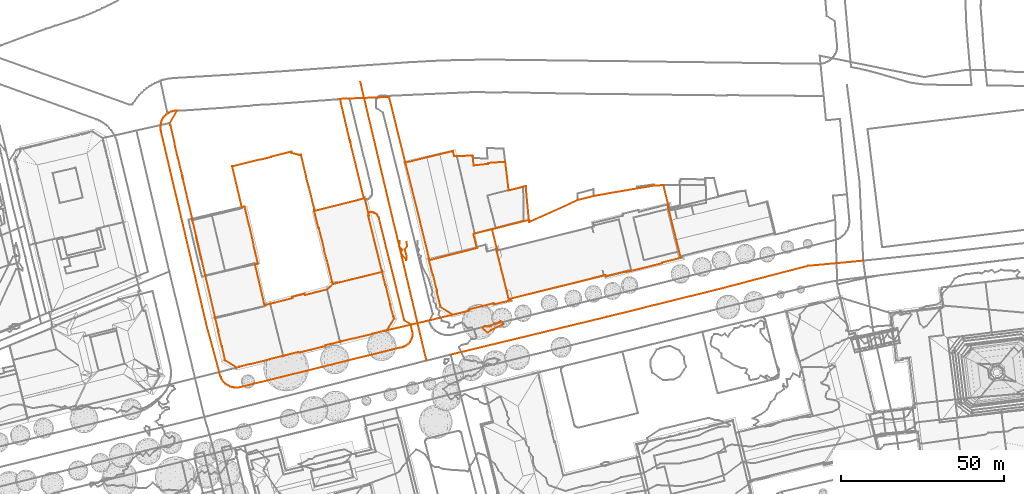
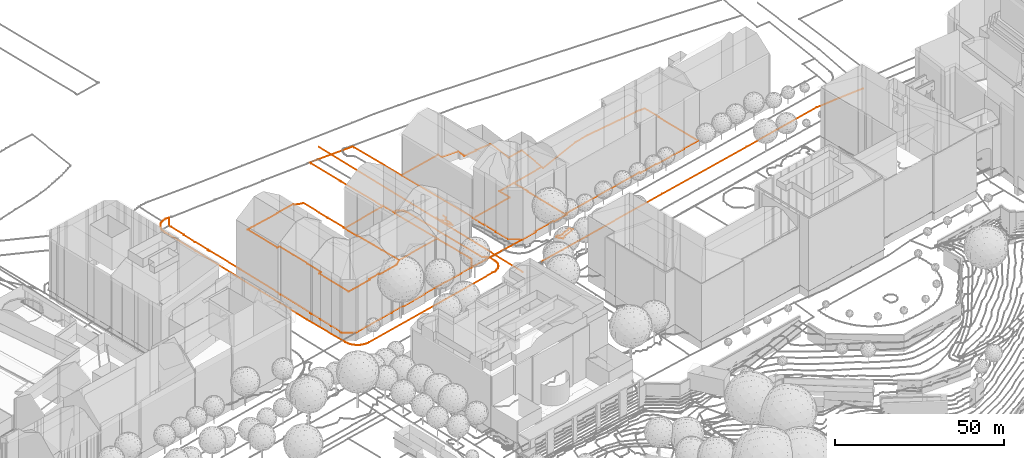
# Not in any storey, part 219 of 494: 12 proxies.
"""IFC2X3 model written with IfcOpenShell, lengths in metres."""

from ifc_helpers import new_model, entity, si_unit, frame, origin_with_axes, place, context, subcontext, project, element, save


model = new_model("IFC2X3")

# Units and contexts
model_context = context("Model", 3, precision=1e-05, world=origin_with_axes())
body_context = subcontext(model_context, "Body", "Model", "MODEL_VIEW")
ifc_project = project(units=[si_unit("AREAUNIT", "SQUARE_METRE"), si_unit("LENGTHUNIT", "METRE")], contexts=[model_context])

# Proxies
proxy_1_placement = place(None, frame((336.4817320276, 476.9157286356, 542.04), z_axis=(0.0, 0.0, 1.0), x_axis=(1.0, 0.0, 0.0)))
element("IfcBuildingElementProxy", 1, at=proxy_1_placement, Name="Road 6", ObjectType="NOTDEFINED", context=body_context, shape_type="GeometricCurveSet", body=[
    entity("IfcGeometricCurveSet", [entity("IfcPolyline", [entity("IfcCartesianPoint", [0.0, 0.0, 0.0]), entity("IfcCartesianPoint", [20.3959999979, -85.9449973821, -0.392])])]),
])
proxy_2_placement = place(None, frame((364.3557320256, 392.7987311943, 541.738), z_axis=(0.0, 0.0, 1.0), x_axis=(1.0, 0.0, 0.0)))
element("IfcBuildingElementProxy", 2, at=proxy_2_placement, Name="Road 168", ObjectType="NOTDEFINED", context=body_context, shape_type="GeometricCurveSet", body=[
    entity("IfcGeometricCurveSet", [entity("IfcPolyline", [entity("IfcCartesianPoint", [0.0, 0.0, 0.0]), entity("IfcCartesianPoint", [48.0580000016, 11.6349996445, 0.573]), entity("IfcCartesianPoint", [81.7109999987, 19.9759993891, 0.748]), entity("IfcCartesianPoint", [109.8969999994, 27.3109991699, 0.752]), entity("IfcCartesianPoint", [126.8670000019, 28.8919991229, 0.703])])]),
])
proxy_3_placement = place(None, frame((297.1247320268, 450.7117160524, 541.6788269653), z_axis=(0.0, 0.0, 1.0), x_axis=(1.0, 0.0, 0.0)))
element("IfcBuildingElementProxy", 3, at=proxy_3_placement, Name="Roads Outline 59", ObjectType="NOTDEFINED", context=body_context, shape_type="GeometricCurveSet", body=[
    entity("IfcGeometricCurveSet", [entity("IfcPolyline", [entity("IfcCartesianPoint", [0.0, 0.0, 0.0]), entity("IfcCartesianPoint", [1.6499999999, 0.409, -0.0016755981]), entity("IfcCartesianPoint", [8.3700000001, 2.0730000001, -0.0223190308]), entity("IfcCartesianPoint", [8.3959999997, 2.0, -0.0214017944]), entity("IfcCartesianPoint", [11.9159999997, 2.8670000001, 0.059857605]), entity("IfcCartesianPoint", [11.8909999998, 2.95, 0.0589176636]), entity("IfcCartesianPoint", [18.196, 4.531, 0.1168852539]), entity("IfcCartesianPoint", [18.3100000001, 4.0919999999, 0.1144012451]), entity("IfcCartesianPoint", [20.5409999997, 3.53, 0.0503810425]), entity("IfcCartesianPoint", [21.1319999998, 3.6770000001, 0.0335469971]), entity("IfcCartesianPoint", [22.7859999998, -3.081, -0.010114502]), entity("IfcCartesianPoint", [22.7199999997, -3.095, -0.0078787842]), entity("IfcCartesianPoint", [23.585, -6.598, -0.0276338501]), entity("IfcCartesianPoint", [23.6529999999, -6.584, -0.0287171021]), entity("IfcCartesianPoint", [25.307, -13.348, -0.0642616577]), entity("IfcCartesianPoint", [25.1519999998, -13.3899999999, -0.056664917]), entity("IfcCartesianPoint", [25.2399999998, -13.7489999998, -0.0609779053]), entity("IfcCartesianPoint", [26.5120000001, -18.953, -0.0857238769]), entity("IfcCartesianPoint", [26.6719999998, -18.9269999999, -0.0804602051]), entity("IfcCartesianPoint", [28.3339999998, -25.6739999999, 0.0201699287]), entity("IfcCartesianPoint", [28.2569999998, -25.6949999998, 0.018988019]), entity("IfcCartesianPoint", [29.1269999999, -29.1969999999, 0.0194713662]), entity("IfcCartesianPoint", [29.1979999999, -29.186, 0.0207217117]), entity("IfcCartesianPoint", [30.9329999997, -36.216, 0.049744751]), entity("IfcCartesianPoint", [29.2029999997, -37.862, 0.0022249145]), entity("IfcCartesianPoint", [22.3929999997, -39.591, -0.048434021]), entity("IfcCartesianPoint", [22.2849999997, -39.192, -0.0505173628]), entity("IfcCartesianPoint", [18.449, -40.1529999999, -0.0261394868]), entity("IfcCartesianPoint", [18.5469999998, -40.5559999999, -0.024960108]), entity("IfcCartesianPoint", [11.7319999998, -42.257, -0.0345388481]), entity("IfcCartesianPoint", [9.9469999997, -42.703, -0.0551670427]), entity("IfcCartesianPoint", [7.0179999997, -30.149, -0.040090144]), entity("IfcCartesianPoint", [7.9099999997, -29.926, -0.074634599]), entity("IfcCartesianPoint", [6.5209999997, -24.04, -0.018808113]), entity("IfcCartesianPoint", [6.605, -24.0159999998, -0.0198595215]), entity("IfcCartesianPoint", [5.2620000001, -18.2109999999, 0.0002366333]), entity("IfcCartesianPoint", [5.1799999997, -18.236, 2.64282e-05]), entity("IfcCartesianPoint", [3.821, -12.338, -0.0033411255]), entity("IfcCartesianPoint", [2.9559999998, -12.5449999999, -0.0030061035]), entity("IfcCartesianPoint", [0.0, 0.0, 0.0])])]),
])
proxy_4_placement = place(None, frame((275.0467320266, 462.7807160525, 541.6980488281), z_axis=(0.0, 0.0, 1.0), x_axis=(1.0, 0.0, 0.0)))
element("IfcBuildingElementProxy", 4, at=proxy_4_placement, Name="Roads Outline 60", ObjectType="NOTDEFINED", context=body_context, shape_type="GeometricCurveSet", body=[
    entity("IfcGeometricCurveSet", [entity("IfcPolyline", [entity("IfcCartesianPoint", [0.0300000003, 0.5899999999, 0.0009667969]), entity("IfcCartesianPoint", [0.1359999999, 1.2039999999, 0.0044673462]), entity("IfcCartesianPoint", [0.318, 1.7999999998, 0.0134096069]), entity("IfcCartesianPoint", [0.5720000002, 2.368, 0.0258894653]), entity("IfcCartesianPoint", [0.8940000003, 2.9009999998, 0.0417103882]), entity("IfcCartesianPoint", [1.281, 3.389, 0.0475413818]), entity("IfcCartesianPoint", [1.7250000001, 3.8259999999, 0.0303331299]), entity("IfcCartesianPoint", [2.2200000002, 4.2039999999, 0.0151245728]), entity("IfcCartesianPoint", [2.7450000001, 4.513, 0.0182327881]), entity("IfcCartesianPoint", [3.304, 4.7549999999, 0.0124403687]), entity("IfcCartesianPoint", [3.8880000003, 4.9269999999, -0.0148276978]), entity("IfcCartesianPoint", [4.4890000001, 5.0279999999, -0.071666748]), entity("IfcCartesianPoint", [5.0970000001, 5.054, -0.1489284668]), entity("IfcCartesianPoint", [2.8590000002, 1.2239999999, 0.0189077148]), entity("IfcCartesianPoint", [3.0219999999, 0.547, 0.0198727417]), entity("IfcCartesianPoint", [3.1030000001, 0.5649999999, 0.0203522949]), entity("IfcCartesianPoint", [4.3910000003, -4.9470000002, -0.0592133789]), entity("IfcCartesianPoint", [4.3089999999, -4.9770000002, -0.0487932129]), entity("IfcCartesianPoint", [5.3930000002, -9.659, -0.1534569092]), entity("IfcCartesianPoint", [5.4780000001, -9.645, -0.153524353]), entity("IfcCartesianPoint", [6.7520000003, -15.135, -0.123000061]), entity("IfcCartesianPoint", [6.6690000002, -15.162, -0.1271490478]), entity("IfcCartesianPoint", [6.75, -15.517, -0.1231000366]), entity("IfcCartesianPoint", [6.8310000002, -15.872, -0.1190510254]), entity("IfcCartesianPoint", [6.9210000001, -15.844, -0.114552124]), entity("IfcCartesianPoint", [9.8130000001, -28.331, -0.0100507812]), entity("IfcCartesianPoint", [9.7400000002, -28.3430000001, -0.0095161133]), entity("IfcCartesianPoint", [9.804, -28.689, -0.0099848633]), entity("IfcCartesianPoint", [9.9010000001, -29.034, -0.0106953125]), entity("IfcCartesianPoint", [9.9700000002, -29.027, -0.0112006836]), entity("IfcCartesianPoint", [13.75, -45.318, -0.0928490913]), entity("IfcCartesianPoint", [13.6800000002, -45.3420000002, -0.0932465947]), entity("IfcCartesianPoint", [13.7409999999, -45.666, -0.0959733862]), entity("IfcCartesianPoint", [13.8340000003, -46.0190000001, -0.0993786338]), entity("IfcCartesianPoint", [13.9040000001, -46.0050000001, -0.0994325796]), entity("IfcCartesianPoint", [16.8259999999, -58.4140000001, -0.2406979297]), entity("IfcCartesianPoint", [16.7400000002, -58.466, -0.2413464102]), entity("IfcCartesianPoint", [16.8259999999, -58.834, -0.247791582]), entity("IfcCartesianPoint", [16.9130000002, -59.203, -0.2524293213]), entity("IfcCartesianPoint", [16.9850000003, -59.1810000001, -0.2515760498]), entity("IfcCartesianPoint", [17.855, -62.8020000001, -0.2738510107]), entity("IfcCartesianPoint", [17.7620000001, -62.8360000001, -0.2750132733]), entity("IfcCartesianPoint", [18.8360000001, -67.361, -0.2796952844]), entity("IfcCartesianPoint", [18.9180000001, -67.3420000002, -0.2779980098]), entity("IfcCartesianPoint", [19.7609999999, -71.0210000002, -0.3249816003]), entity("IfcCartesianPoint", [19.679, -71.0490000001, -0.3270047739]), entity("IfcCartesianPoint", [19.8370000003, -71.743, -0.3289797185]), entity("IfcCartesianPoint", [23.4850000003, -73.9810000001, -0.2930095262]), entity("IfcCartesianPoint", [24.1630000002, -73.817, -0.2965359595]), entity("IfcCartesianPoint", [24.1520000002, -73.7290000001, -0.2928899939]), entity("IfcCartesianPoint", [27.787, -72.817, -0.2841535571]), entity("IfcCartesianPoint", [27.8190000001, -72.8910000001, -0.2865415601]), entity("IfcCartesianPoint", [33.7880000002, -71.4000000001, -0.230156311]), entity("IfcCartesianPoint", [33.7680000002, -71.321, -0.2318454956]), entity("IfcCartesianPoint", [37.409, -70.4210000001, -0.1618181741]), entity("IfcCartesianPoint", [37.4470000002, -70.5, -0.1583328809]), entity("IfcCartesianPoint", [37.8110000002, -70.4110000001, -0.1326917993]), entity("IfcCartesianPoint", [38.1750000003, -70.3220000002, -0.1024150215]), entity("IfcCartesianPoint", [38.1520000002, -70.236, -0.0997557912]), entity("IfcCartesianPoint", [42.324, -69.203, -0.0881807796]), entity("IfcCartesianPoint", [42.378, -69.4310000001, -0.0971087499]), entity("IfcCartesianPoint", [50.8030000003, -67.345, 0.0337734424]), entity("IfcCartesianPoint", [50.7430000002, -67.1130000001, 0.0406000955]), entity("IfcCartesianPoint", [54.895, -66.0720000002, 0.0804437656]), entity("IfcCartesianPoint", [54.929, -66.1610000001, 0.0776237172]), entity("IfcCartesianPoint", [55.2940000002, -66.071, 0.0829830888]), entity("IfcCartesianPoint", [55.6580000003, -65.9820000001, 0.0827874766]), entity("IfcCartesianPoint", [55.6350000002, -65.8900000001, 0.0821821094]), entity("IfcCartesianPoint", [59.2590000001, -65.0010000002, 0.0659820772]), entity("IfcCartesianPoint", [59.29, -65.0820000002, 0.0663261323]), entity("IfcCartesianPoint", [65.281, -63.595, 0.145563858]), entity("IfcCartesianPoint", [65.27, -63.5150000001, 0.1422196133]), entity("IfcCartesianPoint", [68.8990000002, -62.6100000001, 0.2364492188]), entity("IfcCartesianPoint", [68.9310000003, -62.7000000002, 0.234894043]), entity("IfcCartesianPoint", [69.6170000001, -62.527, 0.2437378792]), entity("IfcCartesianPoint", [71.8340000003, -58.8470000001, 0.243986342]), entity("IfcCartesianPoint", [71.659, -58.1460000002, 0.2331991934]), entity("IfcCartesianPoint", [71.5750000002, -58.1840000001, 0.2321311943]), entity("IfcCartesianPoint", [70.6710000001, -54.534, 0.2416911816]), entity("IfcCartesianPoint", [70.7370000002, -54.5180000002, 0.2410928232]), entity("IfcCartesianPoint", [69.2680000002, -48.534, 0.2344405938]), entity("IfcCartesianPoint", [69.1780000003, -48.5480000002, 0.2334919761]), entity("IfcCartesianPoint", [68.2680000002, -44.915, 0.2603381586]), entity("IfcCartesianPoint", [68.3429999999, -44.8860000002, 0.2610097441]), entity("IfcCartesianPoint", [68.2579999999, -44.5120000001, 0.2662855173]), entity("IfcCartesianPoint", [68.1720000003, -44.138, 0.2717700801]), entity("IfcCartesianPoint", [68.0840000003, -44.1580000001, 0.2704731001]), entity("IfcCartesianPoint", [63.9190000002, -27.2220000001, 0.2387770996]), entity("IfcCartesianPoint", [64.1520000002, -27.1640000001, 0.2442525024]), entity("IfcCartesianPoint", [63.929, -26.2590000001, 0.2390133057]), entity("IfcCartesianPoint", [63.9750000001, -26.2450000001, 0.2400998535]), entity("IfcCartesianPoint", [64.3470000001, -26.1610000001, 0.2485966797]), entity("IfcCartesianPoint", [64.727, -26.1330000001, 0.2570622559]), entity("IfcCartesianPoint", [65.1070000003, -26.1610000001, 0.265527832]), entity("IfcCartesianPoint", [65.4790000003, -26.2450000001, 0.272583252]), entity("IfcCartesianPoint", [65.835, -26.382, 0.2792539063]), entity("IfcCartesianPoint", [66.227, -26.621, 0.2837104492]), entity("IfcCartesianPoint", [66.5720000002, -26.9230000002, 0.2797938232]), entity("IfcCartesianPoint", [66.8620000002, -27.2790000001, 0.2765015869]), entity("IfcCartesianPoint", [67.088, -27.6780000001, 0.2739359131]), entity("IfcCartesianPoint", [67.2430000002, -28.1100000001, 0.2676782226]), entity("IfcCartesianPoint", [75.0360000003, -59.48, 0.1908198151]), entity("IfcCartesianPoint", [76.9100000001, -60.612, 0.1337780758]), entity("IfcCartesianPoint", [76.9569999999, -60.7950000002, 0.1268442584]), entity("IfcCartesianPoint", [77.4410000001, -62.6900000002, 0.0761712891]), entity("IfcCartesianPoint", [77.5260000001, -63.2010000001, 0.0825572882]), entity("IfcCartesianPoint", [77.548, -63.719, 0.0967074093]), entity("IfcCartesianPoint", [77.5060000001, -64.236, 0.1075981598]), entity("IfcCartesianPoint", [77.3999999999, -64.743, 0.103211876]), entity("IfcCartesianPoint", [77.233, -65.2340000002, 0.0967943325]), entity("IfcCartesianPoint", [77.0070000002, -65.7000000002, 0.0902831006]), entity("IfcCartesianPoint", [76.7250000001, -66.135, 0.0856594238]), entity("IfcCartesianPoint", [76.3990000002, -66.524, 0.1023774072]), entity("IfcCartesianPoint", [76.0279999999, -66.871, 0.1103007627]), entity("IfcCartesianPoint", [75.6170000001, -67.1700000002, 0.0943287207]), entity("IfcCartesianPoint", [75.1740000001, -67.4180000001, 0.0755755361]), entity("IfcCartesianPoint", [74.7039999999, -67.6100000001, 0.0772408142]), entity("IfcCartesianPoint", [74.2140000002, -67.7450000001, 0.0765519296]), entity("IfcCartesianPoint", [73.7120000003, -67.8190000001, 0.0677834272]), entity("IfcCartesianPoint", [24.548, -79.983, -0.4654792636]), entity("IfcCartesianPoint", [23.9310000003, -80.0930000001, -0.4729349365]), entity("IfcCartesianPoint", [23.3050000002, -80.128, -0.4662569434]), entity("IfcCartesianPoint", [22.679, -80.0860000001, -0.4889861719]), entity("IfcCartesianPoint", [22.0640000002, -79.9670000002, -0.5106293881]), entity("IfcCartesianPoint", [21.4670000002, -79.7750000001, -0.4969277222]), entity("IfcCartesianPoint", [20.898, -79.5110000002, -0.4904165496]), entity("IfcCartesianPoint", [20.3659999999, -79.1800000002, -0.4878103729]), entity("IfcCartesianPoint", [19.915, -78.821, -0.4824731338]), entity("IfcCartesianPoint", [19.5070000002, -78.4130000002, -0.4973264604]), entity("IfcCartesianPoint", [19.1469999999, -77.9610000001, -0.5141732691]), entity("IfcCartesianPoint", [18.841, -77.4720000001, -0.4788578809]), entity("IfcCartesianPoint", [18.591, -76.952, -0.4694580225]), entity("IfcCartesianPoint", [18.4020000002, -76.4070000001, -0.4673487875]), entity("IfcCartesianPoint", [18.1120000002, -75.3370000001, -0.4588355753]), entity("IfcCartesianPoint", [14.2260000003, -61.0010000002, -0.2770075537]), entity("IfcCartesianPoint", [10.807, -46.452, -0.1292259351]), entity("IfcCartesianPoint", [7.0100000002, -30.335, -0.1101032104]), entity("IfcCartesianPoint", [3.1570000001, -13.942, 0.0193040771]), entity("IfcCartesianPoint", [0.148, -1.1700000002, 0.0050569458]), entity("IfcCartesianPoint", [0.0390000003, -0.5890000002, 0.0012568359]), entity("IfcCartesianPoint", [0.0, 0.0, 0.0]), entity("IfcCartesianPoint", [0.0300000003, 0.5899999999, 0.0009667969])])]),
])
proxy_5_placement = place(None, frame((377.0367320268, 431.3677160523, 542.2162315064), z_axis=(0.0, 0.0, 1.0), x_axis=(1.0, 0.0, 0.0)))
element("IfcBuildingElementProxy", 5, at=proxy_5_placement, Name="Cadastre 16", ObjectType="NOTDEFINED", context=body_context, shape_type="GeometricCurveSet", body=[
    entity("IfcGeometricCurveSet", [entity("IfcPolyline", [entity("IfcCartesianPoint", [0.0, 0.0, 0.0]), entity("IfcCartesianPoint", [11.3399999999, 2.8670000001, 0.1822682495]), entity("IfcCartesianPoint", [11.4019999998, 2.213, 0.1821925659]), entity("IfcCartesianPoint", [26.3789999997, 8.963, 0.2160894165]), entity("IfcCartesianPoint", [31.3279999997, 10.253, 0.2043529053]), entity("IfcCartesianPoint", [44.3670000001, 12.4850000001, 0.2570105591]), entity("IfcCartesianPoint", [50.176, 13.4750000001, 0.3522877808]), entity("IfcCartesianPoint", [52.736, 13.5150000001, 0.3821083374]), entity("IfcCartesianPoint", [54.196, 7.635, 0.3756911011]), entity("IfcCartesianPoint", [53.9959999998, 7.5850000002, 0.376788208]), entity("IfcCartesianPoint", [58.0469999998, -8.818, 0.3820906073]), entity("IfcCartesianPoint", [52.2969999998, -10.2389999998, 0.4040692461]), entity("IfcCartesianPoint", [52.3619999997, -10.4689999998, 0.4052933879]), entity("IfcCartesianPoint", [41.389, -13.1679999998, 0.3297703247]), entity("IfcCartesianPoint", [41.338, -12.96, 0.3279343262]), entity("IfcCartesianPoint", [35.1000000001, -14.534, 0.2568990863]), entity("IfcCartesianPoint", [34.9839999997, -14.068, 0.2523218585]), entity("IfcCartesianPoint", [5.6370000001, -21.3799999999, 0.0141217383]), entity("IfcCartesianPoint", [5.767, -21.8739999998, 0.005846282]), entity("IfcCartesianPoint", [5.2819999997, -21.9939999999, 0.0122577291]), entity("IfcCartesianPoint", [1.3199999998, -6.1359999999, 0.1616621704]), entity("IfcCartesianPoint", [1.537, -6.078, 0.1822575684]), entity("IfcCartesianPoint", [0.0, 0.0, 0.0])])]),
])
proxy_6_placement = place(None, frame((297.1247320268, 450.7117160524, 541.6788269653), z_axis=(0.0, 0.0, 1.0), x_axis=(1.0, 0.0, 0.0)))
element("IfcBuildingElementProxy", 6, at=proxy_6_placement, Name="Cadastre 47", ObjectType="NOTDEFINED", context=body_context, shape_type="GeometricCurveSet", body=[
    entity("IfcGeometricCurveSet", [entity("IfcPolyline", [entity("IfcCartesianPoint", [0.0, 0.0, 0.0]), entity("IfcCartesianPoint", [1.6499999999, 0.409, -0.0016755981]), entity("IfcCartesianPoint", [8.3700000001, 2.0730000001, -0.0223190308]), entity("IfcCartesianPoint", [8.3959999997, 2.0, -0.0214017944]), entity("IfcCartesianPoint", [11.9159999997, 2.8670000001, 0.059857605]), entity("IfcCartesianPoint", [11.8909999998, 2.95, 0.0589176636]), entity("IfcCartesianPoint", [18.196, 4.531, 0.1168852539]), entity("IfcCartesianPoint", [18.3100000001, 4.0919999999, 0.1144012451]), entity("IfcCartesianPoint", [20.5409999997, 3.53, 0.0503810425]), entity("IfcCartesianPoint", [21.1319999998, 3.6770000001, 0.0335469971]), entity("IfcCartesianPoint", [22.7859999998, -3.081, -0.010114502]), entity("IfcCartesianPoint", [22.7199999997, -3.095, -0.0078787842]), entity("IfcCartesianPoint", [23.585, -6.598, -0.0276338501]), entity("IfcCartesianPoint", [23.6529999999, -6.584, -0.0287171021]), entity("IfcCartesianPoint", [25.307, -13.348, -0.0642616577]), entity("IfcCartesianPoint", [25.1519999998, -13.3899999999, -0.056664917]), entity("IfcCartesianPoint", [25.2399999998, -13.7489999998, -0.0609779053]), entity("IfcCartesianPoint", [26.5120000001, -18.953, -0.0857238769]), entity("IfcCartesianPoint", [26.6719999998, -18.9269999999, -0.0804602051]), entity("IfcCartesianPoint", [28.3339999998, -25.6739999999, 0.0201699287]), entity("IfcCartesianPoint", [28.2569999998, -25.6949999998, 0.018988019]), entity("IfcCartesianPoint", [29.1269999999, -29.1969999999, 0.0194713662]), entity("IfcCartesianPoint", [29.1979999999, -29.186, 0.0207217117]), entity("IfcCartesianPoint", [30.9329999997, -36.216, 0.049744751]), entity("IfcCartesianPoint", [29.2029999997, -37.862, 0.0022249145]), entity("IfcCartesianPoint", [22.3929999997, -39.591, -0.048434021]), entity("IfcCartesianPoint", [22.2849999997, -39.192, -0.0505173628]), entity("IfcCartesianPoint", [18.449, -40.1529999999, -0.0261394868]), entity("IfcCartesianPoint", [18.5469999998, -40.5559999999, -0.024960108]), entity("IfcCartesianPoint", [11.7319999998, -42.257, -0.0345388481]), entity("IfcCartesianPoint", [9.9469999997, -42.703, -0.0551670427]), entity("IfcCartesianPoint", [7.0179999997, -30.149, -0.040090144]), entity("IfcCartesianPoint", [7.9099999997, -29.926, -0.074634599]), entity("IfcCartesianPoint", [6.5209999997, -24.04, -0.018808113]), entity("IfcCartesianPoint", [6.605, -24.0159999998, -0.0198595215]), entity("IfcCartesianPoint", [5.2620000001, -18.2109999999, 0.0002366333]), entity("IfcCartesianPoint", [5.1799999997, -18.236, 2.64282e-05]), entity("IfcCartesianPoint", [3.821, -12.338, -0.0033411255]), entity("IfcCartesianPoint", [2.9559999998, -12.5449999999, -0.0030061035]), entity("IfcCartesianPoint", [0.0, 0.0, 0.0])])]),
])
proxy_7_placement = place(None, frame((330.3587320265, 471.4587160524, 541.7696022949), z_axis=(0.0, 0.0, 1.0), x_axis=(1.0, 0.0, 0.0)))
element("IfcBuildingElementProxy", 7, at=proxy_7_placement, Name="Cadastre 48", ObjectType="NOTDEFINED", context=body_context, shape_type="GeometricCurveSet", body=[
    entity("IfcGeometricCurveSet", [entity("IfcPolyline", [entity("IfcCartesianPoint", [0.0, 0.0, 0.0]), entity("IfcCartesianPoint", [14.9870000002, 0.5750000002, 0.1400041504]), entity("IfcCartesianPoint", [15.145, -0.0789999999, 0.1459735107]), entity("IfcCartesianPoint", [15.1920000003, -0.0799999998, 0.1477492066]), entity("IfcCartesianPoint", [19.9960000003, -19.3929999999, 0.2209631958]), entity("IfcCartesianPoint", [19.9610000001, -19.412, 0.2230460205]), entity("IfcCartesianPoint", [20.0130000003, -19.6259999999, 0.2199515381]), entity("IfcCartesianPoint", [20.108, -20.0209999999, 0.2142981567]), entity("IfcCartesianPoint", [20.1710000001, -20.007, 0.2105490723]), entity("IfcCartesianPoint", [27.3540000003, -49.1409999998, 0.3258504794]), entity("IfcCartesianPoint", [27.196, -49.1839999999, 0.3249682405]), entity("IfcCartesianPoint", [27.307, -49.6299999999, 0.3369750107]), entity("IfcCartesianPoint", [28.4510000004, -54.2169999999, 0.3122674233]), entity("IfcCartesianPoint", [28.5750000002, -54.1949999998, 0.3121810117]), entity("IfcCartesianPoint", [29.7590000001, -59.0149999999, 0.2710263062]), entity("IfcCartesianPoint", [29.6350000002, -59.0419999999, 0.2697677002]), entity("IfcCartesianPoint", [30.8900000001, -64.1139999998, 0.2949888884]), entity("IfcCartesianPoint", [34.5890000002, -66.419, 0.2919831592]), entity("IfcCartesianPoint", [14.3050000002, -71.2049999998, 0.1721844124]), entity("IfcCartesianPoint", [16.5220000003, -67.5249999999, 0.1724328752]), entity("IfcCartesianPoint", [16.3470000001, -66.824, 0.1616457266]), entity("IfcCartesianPoint", [16.2630000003, -66.862, 0.1605777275]), entity("IfcCartesianPoint", [15.3590000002, -63.2119999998, 0.1701377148]), entity("IfcCartesianPoint", [15.4250000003, -63.196, 0.1695393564]), entity("IfcCartesianPoint", [13.9560000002, -57.2119999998, 0.162887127]), entity("IfcCartesianPoint", [13.8660000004, -57.226, 0.1619385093]), entity("IfcCartesianPoint", [12.9560000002, -53.5929999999, 0.1887846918]), entity("IfcCartesianPoint", [13.031, -53.564, 0.1894562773]), entity("IfcCartesianPoint", [12.946, -53.1899999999, 0.1947320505]), entity("IfcCartesianPoint", [12.8600000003, -52.8159999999, 0.2002166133]), entity("IfcCartesianPoint", [12.7720000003, -52.8359999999, 0.1989196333]), entity("IfcCartesianPoint", [8.6070000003, -35.8999999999, 0.1672236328]), entity("IfcCartesianPoint", [8.8400000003, -35.8419999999, 0.1726990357]), entity("IfcCartesianPoint", [7.5440000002, -30.5899999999, 0.1421149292]), entity("IfcCartesianPoint", [7.4550000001, -30.2309999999, 0.1400126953]), entity("IfcCartesianPoint", [7.2320000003, -30.2859999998, 0.1347453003]), entity("IfcCartesianPoint", [3.0720000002, -13.3169999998, 0.0458264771]), entity("IfcCartesianPoint", [3.159, -13.2949999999, 0.0471274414]), entity("IfcCartesianPoint", [3.0730000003, -12.9519999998, 0.0458414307]), entity("IfcCartesianPoint", [2.9880000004, -12.6099999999, 0.0445703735]), entity("IfcCartesianPoint", [2.9010000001, -12.632, 0.0432694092]), entity("IfcCartesianPoint", [0.0790000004, -0.682, 0.0011765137]), entity("IfcCartesianPoint", [0.1660000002, -0.6599999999, 0.002472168]), entity("IfcCartesianPoint", [0.0, 0.0, 0.0])])]),
])
proxy_8_placement = place(None, frame((350.3717320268, 451.8327160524, 541.989553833), z_axis=(0.0, 0.0, 1.0), x_axis=(1.0, 0.0, 0.0)))
element("IfcBuildingElementProxy", 8, at=proxy_8_placement, Name="Cadastre 49", ObjectType="NOTDEFINED", context=body_context, shape_type="GeometricCurveSet", body=[
    entity("IfcGeometricCurveSet", [entity("IfcPolyline", [entity("IfcCartesianPoint", [0.0, 0.0, 0.0]), entity("IfcCartesianPoint", [14.6540000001, 3.585, 0.1497576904]), entity("IfcCartesianPoint", [15.0449999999, 1.993, 0.1499817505]), entity("IfcCartesianPoint", [20.6869999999, 2.1710000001, 0.1577591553]), entity("IfcCartesianPoint", [21.034, -0.868, 0.1619075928]), entity("IfcCartesianPoint", [25.4440000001, -0.355, 0.2413348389]), entity("IfcCartesianPoint", [25.4219999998, -0.0859999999, 0.2429998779]), entity("IfcCartesianPoint", [30.7319999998, 0.2760000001, 0.4419195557]), entity("IfcCartesianPoint", [31.7919999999, -8.5419999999, 0.4724477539]), entity("IfcCartesianPoint", [35.7850000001, -7.5319999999, 0.4568972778]), entity("IfcCartesianPoint", [37.0260000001, -7.2179999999, 0.4254705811]), entity("IfcCartesianPoint", [38.0049999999, -17.598, 0.4089459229]), entity("IfcCartesianPoint", [26.665, -20.4650000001, 0.2266776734]), entity("IfcCartesianPoint", [20.9350000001, -21.9129999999, 0.1604090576]), entity("IfcCartesianPoint", [22.0299999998, -26.2579999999, 0.1873798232]), entity("IfcCartesianPoint", [7.2939999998, -30.004, 0.1170234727]), entity("IfcCartesianPoint", [7.1829999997, -29.558, 0.1050167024]), entity("IfcCartesianPoint", [7.341, -29.5149999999, 0.1058989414]), entity("IfcCartesianPoint", [0.1579999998, -0.3810000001, -0.0094024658]), entity("IfcCartesianPoint", [0.0949999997, -0.395, -0.0056533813]), entity("IfcCartesianPoint", [0.0, 0.0, 0.0])])]),
])
proxy_9_placement = place(None, frame((322.3647320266, 436.9627160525, 541.6178490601), z_axis=(0.0, 0.0, 1.0), x_axis=(1.0, 0.0, 0.0)))
element("IfcBuildingElementProxy", 9, at=proxy_9_placement, Name="Cadastre 50", ObjectType="NOTDEFINED", context=body_context, shape_type="GeometricCurveSet", body=[
    entity("IfcGeometricCurveSet", [entity("IfcPolyline", [entity("IfcCartesianPoint", [0.0, 0.0, 0.0]), entity("IfcCartesianPoint", [15.5380000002, 3.906, 0.2938681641]), entity("IfcCartesianPoint", [16.8340000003, -1.3460000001, 0.3244522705]), entity("IfcCartesianPoint", [16.6010000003, -1.4040000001, 0.3189768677]), entity("IfcCartesianPoint", [20.7660000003, -18.3400000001, 0.3506728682]), entity("IfcCartesianPoint", [20.8540000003, -18.3200000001, 0.3519698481]), entity("IfcCartesianPoint", [20.9399999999, -18.6940000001, 0.3464852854]), entity("IfcCartesianPoint", [5.693, -22.4670000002, 0.1107226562]), entity("IfcCartesianPoint", [3.9580000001, -15.4370000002, 0.081699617]), entity("IfcCartesianPoint", [3.8870000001, -15.4480000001, 0.0804492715]), entity("IfcCartesianPoint", [3.017, -11.946, 0.0799659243]), entity("IfcCartesianPoint", [3.094, -11.925, 0.081147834]), entity("IfcCartesianPoint", [1.432, -5.1780000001, -0.0194822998]), entity("IfcCartesianPoint", [1.2720000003, -5.2040000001, -0.0247459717]), entity("IfcCartesianPoint", [0.0, 0.0, 0.0])])]),
])
proxy_10_placement = place(None, frame((357.6657320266, 421.8287160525, 542.1065773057), z_axis=(0.0, 0.0, 1.0), x_axis=(1.0, 0.0, 0.0)))
element("IfcBuildingElementProxy", 10, at=proxy_10_placement, Name="Cadastre 51", ObjectType="NOTDEFINED", context=body_context, shape_type="GeometricCurveSet", body=[
    entity("IfcGeometricCurveSet", [entity("IfcPolyline", [entity("IfcCartesianPoint", [0.0, 0.0, 0.0]), entity("IfcCartesianPoint", [14.736, 3.746, 0.0703563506]), entity("IfcCartesianPoint", [13.6410000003, 8.091, 0.043385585]), entity("IfcCartesianPoint", [19.3710000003, 9.5389999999, 0.1096542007]), entity("IfcCartesianPoint", [20.9080000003, 3.4609999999, 0.2919117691]), entity("IfcCartesianPoint", [20.6910000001, 3.4029999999, 0.2713163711]), entity("IfcCartesianPoint", [24.6529999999, -12.4550000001, 0.1219119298]), entity("IfcCartesianPoint", [19.9180000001, -13.6270000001, 0.0567596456]), entity("IfcCartesianPoint", [19.824, -13.2490000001, 0.0560260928]), entity("IfcCartesianPoint", [12.3530000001, -15.112, 0.0323117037]), entity("IfcCartesianPoint", [12.4470000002, -15.49, 0.0079118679]), entity("IfcCartesianPoint", [7.2820000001, -16.7890000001, -0.0449918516]), entity("IfcCartesianPoint", [3.5830000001, -14.4839999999, -0.0419861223]), entity("IfcCartesianPoint", [2.3280000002, -9.412, -0.0672073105]), entity("IfcCartesianPoint", [2.452, -9.385, -0.0659487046]), entity("IfcCartesianPoint", [1.2680000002, -4.5649999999, -0.024793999]), entity("IfcCartesianPoint", [1.1440000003, -4.5870000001, -0.0247075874]), entity("IfcCartesianPoint", [0.0, 0.0, 0.0])])]),
])
proxy_11_placement = place(None, frame((348.5016236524, 426.1707160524, 542.0), z_axis=(0.0, 0.0, 1.0), x_axis=(1.0, 0.0, 0.0)))
element("IfcBuildingElementProxy", 11, at=proxy_11_placement, Name="Contour Line 542.0 m", ObjectType="NOTDEFINED", context=body_context, shape_type="GeometricCurveSet", body=[
    entity("IfcGeometricCurveSet", [entity("IfcPolyline", [entity("IfcCartesianPoint", [2.1945699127, 1.5, 0.0]), entity("IfcCartesianPoint", [2.4147290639, 0.0, 0.0]), entity("IfcCartesianPoint", [1.6801734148, -1.0, 0.0]), entity("IfcCartesianPoint", [2.3132051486, -3.0, 0.0]), entity("IfcCartesianPoint", [2.1761083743, -4.3333333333, 0.0]), entity("IfcCartesianPoint", [0.5960112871, -2.0, 0.0]), entity("IfcCartesianPoint", [0.8780314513, -1.0, 0.0]), entity("IfcCartesianPoint", [0.0, 0.0, 0.0]), entity("IfcCartesianPoint", [0.1381336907, 1.5, 0.0])])]),
])
proxy_12_placement = place(None, frame((374.1576142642, 401.1707160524, 542.0), z_axis=(0.0, 0.0, 1.0), x_axis=(1.0, 0.0, 0.0)))
element("IfcBuildingElementProxy", 12, at=proxy_12_placement, Name="Contour Line 542.0 m", ObjectType="NOTDEFINED", context=body_context, shape_type="GeometricCurveSet", body=[
    entity("IfcGeometricCurveSet", [entity("IfcPolyline", [entity("IfcCartesianPoint", [1.5201177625, -1.6146853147, 0.0]), entity("IfcCartesianPoint", [2.5201177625, -0.8342440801, 0.0]), entity("IfcCartesianPoint", [6.3895867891, 1.0, 0.0]), entity("IfcCartesianPoint", [5.5201177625, 2.0055205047, 0.0]), entity("IfcCartesianPoint", [4.5201177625, 1.3025454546, 0.0]), entity("IfcCartesianPoint", [3.5201177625, 1.1204188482, 0.0]), entity("IfcCartesianPoint", [2.5201177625, 0.3533950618, 0.0]), entity("IfcCartesianPoint", [1.5201177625, 0.1885745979, 0.0]), entity("IfcCartesianPoint", [0.5201177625, 0.4437002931, 0.0]), entity("IfcCartesianPoint", [0.0, 0.0, 0.0]), entity("IfcCartesianPoint", [0.5201177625, -0.8432776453, 0.0]), entity("IfcCartesianPoint", [1.5201177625, -1.6146853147, 0.0])])]),
])

save(model, "model.ifc")
